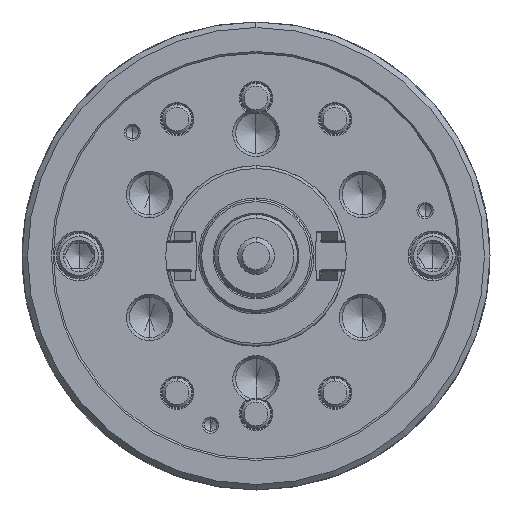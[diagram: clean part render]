
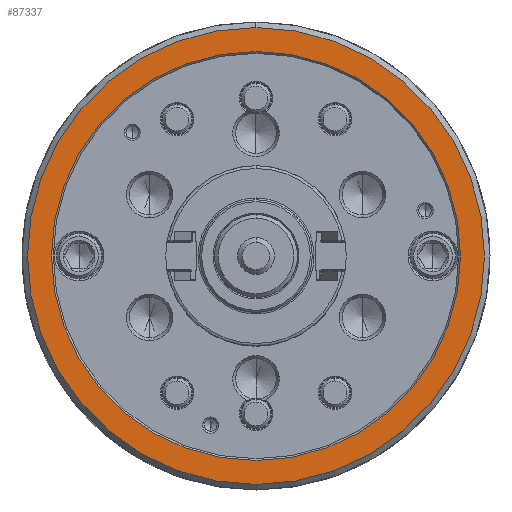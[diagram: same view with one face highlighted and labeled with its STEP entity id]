
A CAD part, left-side view. The second image highlights one B-rep face of the part: STEP entity #87337.
In plain terms, the highlighted planar face has unit normal (-1, 0, 0).
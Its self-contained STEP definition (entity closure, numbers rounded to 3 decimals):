
#2622 = DIRECTION ( 'NONE',  ( 0., 0., -1. ) ) ;
#3100 = AXIS2_PLACEMENT_3D ( 'NONE', #62583, #39949, #8147 ) ;
#8147 = DIRECTION ( 'NONE',  ( 0., 0., -1. ) ) ;
#10644 = CARTESIAN_POINT ( 'NONE',  ( -89., 0., 0. ) ) ;
#16801 = DIRECTION ( 'NONE',  ( 1., 0., 0. ) ) ;
#17913 = CIRCLE ( 'NONE', #3100, 124. ) ;
#18035 = PLANE ( 'NONE',  #101459 ) ;
#18790 = EDGE_LOOP ( 'NONE', ( #36633, #101205 ) ) ;
#25992 = DIRECTION ( 'NONE',  ( 0., 0., -1. ) ) ;
#28235 = EDGE_LOOP ( 'NONE', ( #100370, #54945 ) ) ;
#30944 = AXIS2_PLACEMENT_3D ( 'NONE', #97325, #98812, #58896 ) ;
#31202 = DIRECTION ( 'NONE',  ( 1., 0., 0. ) ) ;
#32912 = FACE_OUTER_BOUND ( 'NONE', #28235, .T. ) ;
#36633 = ORIENTED_EDGE ( 'NONE', *, *, #52530, .T. ) ;
#37408 = CARTESIAN_POINT ( 'NONE',  ( -89., 0., 0. ) ) ;
#39803 = EDGE_CURVE ( 'NONE', #82574, #64725, #94660, .T. ) ;
#39949 = DIRECTION ( 'NONE',  ( 1., 0., 0. ) ) ;
#41167 = FACE_BOUND ( 'NONE', #18790, .T. ) ;
#44287 = VERTEX_POINT ( 'NONE', #45394 ) ;
#45394 = CARTESIAN_POINT ( 'NONE',  ( -89., 0., -124. ) ) ;
#50489 = AXIS2_PLACEMENT_3D ( 'NONE', #10644, #16801, #25992 ) ;
#52530 = EDGE_CURVE ( 'NONE', #64725, #82574, #75277, .T. ) ;
#53831 = EDGE_CURVE ( 'NONE', #44287, #82971, #17913, .T. ) ;
#54945 = ORIENTED_EDGE ( 'NONE', *, *, #89277, .F. ) ;
#57374 = CARTESIAN_POINT ( 'NONE',  ( -89., 0., 111. ) ) ;
#58896 = DIRECTION ( 'NONE',  ( 0., 0., -1. ) ) ;
#62568 = DIRECTION ( 'NONE',  ( 0., 0., -1. ) ) ;
#62583 = CARTESIAN_POINT ( 'NONE',  ( -89., 0., 0. ) ) ;
#64725 = VERTEX_POINT ( 'NONE', #57374 ) ;
#73526 = CARTESIAN_POINT ( 'NONE',  ( -89., -124., 0. ) ) ;
#75277 = CIRCLE ( 'NONE', #30944, 111. ) ;
#82574 = VERTEX_POINT ( 'NONE', #97097 ) ;
#82971 = VERTEX_POINT ( 'NONE', #89318 ) ;
#84638 = CIRCLE ( 'NONE', #100846, 124. ) ;
#86861 = DIRECTION ( 'NONE',  ( 1., 0., 0. ) ) ;
#87337 = ADVANCED_FACE ( 'NONE', ( #32912, #41167 ), #18035, .F. ) ;
#89277 = EDGE_CURVE ( 'NONE', #82971, #44287, #84638, .T. ) ;
#89318 = CARTESIAN_POINT ( 'NONE',  ( -89., 0., 124. ) ) ;
#94660 = CIRCLE ( 'NONE', #50489, 111. ) ;
#97097 = CARTESIAN_POINT ( 'NONE',  ( -89., 0., -111. ) ) ;
#97325 = CARTESIAN_POINT ( 'NONE',  ( -89., 0., 0. ) ) ;
#98812 = DIRECTION ( 'NONE',  ( 1., 0., 0. ) ) ;
#100370 = ORIENTED_EDGE ( 'NONE', *, *, #53831, .F. ) ;
#100846 = AXIS2_PLACEMENT_3D ( 'NONE', #37408, #31202, #62568 ) ;
#101205 = ORIENTED_EDGE ( 'NONE', *, *, #39803, .T. ) ;
#101459 = AXIS2_PLACEMENT_3D ( 'NONE', #73526, #86861, #2622 ) ;
